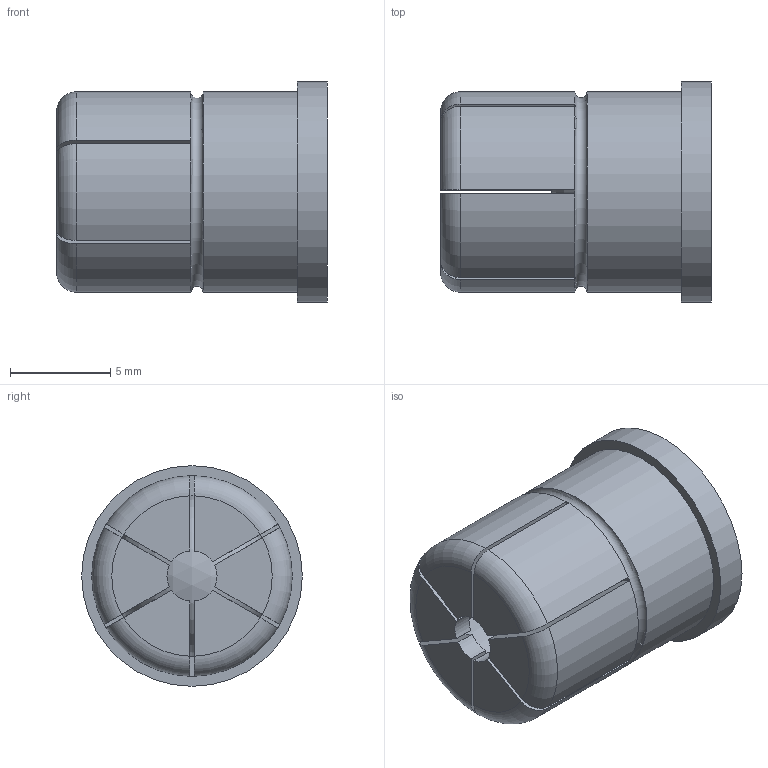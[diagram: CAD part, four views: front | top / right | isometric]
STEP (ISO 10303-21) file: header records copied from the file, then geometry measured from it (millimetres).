
FILE_DESCRIPTION( ( 'STEP AP203' ), '1' );
FILE_NAME( 'C:/Temp/Ganter_Step_05_03_2020/data/3_1/gn_614_5/Spring plunger GN 614.5-10-KD (activated).stp', '2020-03-12T09:12:50', ( 'License CC BY-ND 4.0' ), ( 'CADENAS' ), ' ', 'PARTsolutions', ' ' );
FILE_SCHEMA( ( 'CONFIG_CONTROL_DESIGN' ) );
Length unit declared in the file: millimetre
Products named in the file (1): _Spring plunger GN 614.5-10-KD (activated)
Bounding box: 13.5 x 11 x 11 mm (x, y, z)
Volume: 702.3 mm3; surface area: 1183.6 mm2
Topology: 1 solids, 1 shells, 63 faces, 165 edges, 106 vertices
Faces by surface type: plane 32, cylinder 16, torus 13, sphere 2
Full cylindrical faces by diameter (mm): 7.98 x2, 10 x1, 11 x1
Entity records: 2042 total; most frequent: CARTESIAN_POINT 478, DIRECTION 322, ORIENTED_EDGE 314, EDGE_CURVE 157, AXIS2_PLACEMENT_3D 125, VERTEX_POINT 103, LINE 72, VECTOR 72
